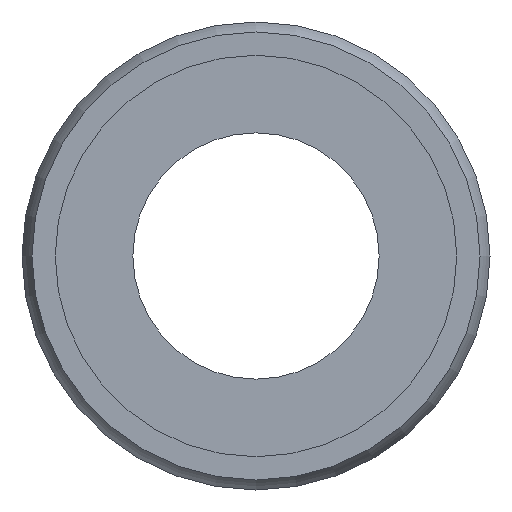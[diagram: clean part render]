
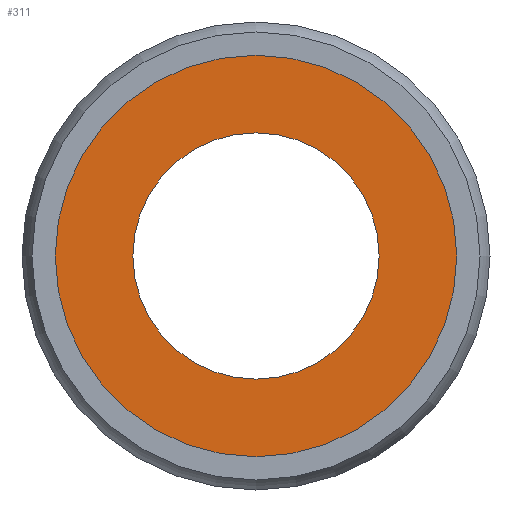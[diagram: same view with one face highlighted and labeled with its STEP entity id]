
A CAD part, left-side view. The second image highlights one B-rep face of the part: STEP entity #311.
In plain terms, the highlighted planar face has unit normal (-1, 0, 0).
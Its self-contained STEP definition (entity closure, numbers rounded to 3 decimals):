
#277=CARTESIAN_POINT('',(0.1,0.0,8.15));
#278=VERTEX_POINT('',#277);
#279=CARTESIAN_POINT('',(0.1,0.0,0.));
#280=DIRECTION('',(-1.0,0.0,0.0));
#281=DIRECTION('',(0.0,0.0,1.0));
#282=AXIS2_PLACEMENT_3D('',#279,#280,#281);
#283=CIRCLE('',#282,8.15);
#284=EDGE_CURVE('',#278,#278,#283,.T.);
#292=CARTESIAN_POINT('',(0.1,0.0,6.575));
#293=DIRECTION('',(-1.0,0.0,0.0));
#294=DIRECTION('',(0.0,0.0,1.0));
#295=AXIS2_PLACEMENT_3D('',#292,#293,#294);
#296=PLANE('',#295);
#297=ORIENTED_EDGE('',*,*,#284,.T.);
#298=EDGE_LOOP('',(#297));
#299=FACE_OUTER_BOUND('',#298,.T.);
#300=CARTESIAN_POINT('',(0.1,0.0,5.));
#301=VERTEX_POINT('',#300);
#302=CARTESIAN_POINT('',(0.1,0.0,0.));
#303=DIRECTION('',(-1.0,0.0,0.0));
#304=DIRECTION('',(0.0,0.0,1.0));
#305=AXIS2_PLACEMENT_3D('',#302,#303,#304);
#306=CIRCLE('',#305,5.);
#307=EDGE_CURVE('',#301,#301,#306,.T.);
#308=ORIENTED_EDGE('',*,*,#307,.F.);
#309=EDGE_LOOP('',(#308));
#310=FACE_BOUND('',#309,.T.);
#311=ADVANCED_FACE('',(#299,#310),#296,.T.);
